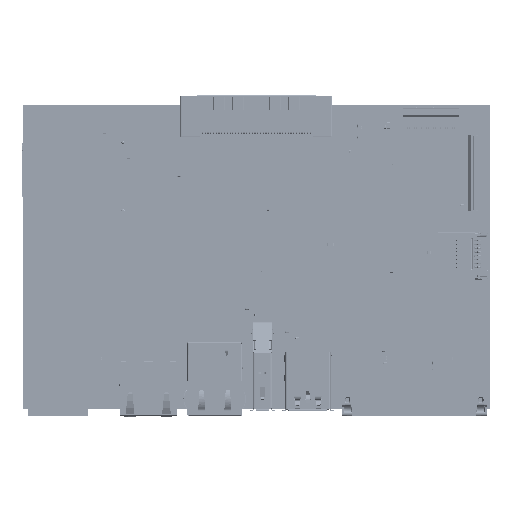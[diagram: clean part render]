
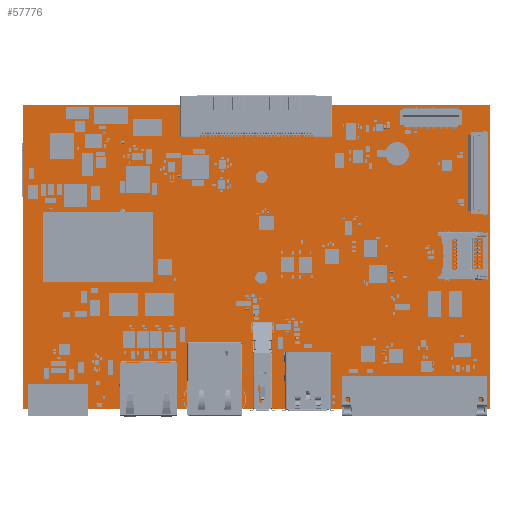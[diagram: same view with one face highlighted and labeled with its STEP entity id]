
A CAD part, top view. The second image highlights one B-rep face of the part: STEP entity #57776.
In plain terms, the highlighted planar face has unit normal (0, 0, 1).
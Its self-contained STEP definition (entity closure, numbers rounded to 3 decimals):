
#57776=ADVANCED_FACE('',(#136945,#136946,#136947,#136948,#136949,#136950,#136951,#136952,#136953,#136954,#136955,#136956,#136957,#136958,#136959),#136960,.T.);
#136945=FACE_BOUND('',#236999,.T.);
#136946=FACE_BOUND('',#237000,.T.);
#136947=FACE_BOUND('',#237001,.T.);
#136948=FACE_BOUND('',#237002,.T.);
#136949=FACE_BOUND('',#237003,.T.);
#136950=FACE_BOUND('',#237004,.T.);
#136951=FACE_BOUND('',#237005,.T.);
#136952=FACE_BOUND('',#237006,.T.);
#136953=FACE_BOUND('',#237007,.T.);
#136954=FACE_BOUND('',#237008,.T.);
#136955=FACE_BOUND('',#237009,.T.);
#136956=FACE_BOUND('',#237010,.T.);
#136957=FACE_BOUND('',#237011,.T.);
#136958=FACE_BOUND('',#237012,.T.);
#136959=FACE_OUTER_BOUND('',#237013,.T.);
#136960=PLANE('',#237014);
#236999=EDGE_LOOP('',(#365048));
#237000=EDGE_LOOP('',(#365049));
#237001=EDGE_LOOP('',(#365050));
#237002=EDGE_LOOP('',(#365051));
#237003=EDGE_LOOP('',(#365052));
#237004=EDGE_LOOP('',(#365053));
#237005=EDGE_LOOP('',(#365054));
#237006=EDGE_LOOP('',(#365055));
#237007=EDGE_LOOP('',(#365056));
#237008=EDGE_LOOP('',(#365057));
#237009=EDGE_LOOP('',(#365058));
#237010=EDGE_LOOP('',(#365059));
#237011=EDGE_LOOP('',(#365060));
#237012=EDGE_LOOP('',(#365061));
#237013=EDGE_LOOP('',(#365062,#365063,#365064,#365065));
#237014=AXIS2_PLACEMENT_3D('',#365066,#365067,#365068);
#365048=ORIENTED_EDGE('',*,*,#628884,.T.);
#365049=ORIENTED_EDGE('',*,*,#628887,.T.);
#365050=ORIENTED_EDGE('',*,*,#628890,.T.);
#365051=ORIENTED_EDGE('',*,*,#628893,.T.);
#365052=ORIENTED_EDGE('',*,*,#628896,.T.);
#365053=ORIENTED_EDGE('',*,*,#628899,.T.);
#365054=ORIENTED_EDGE('',*,*,#628902,.T.);
#365055=ORIENTED_EDGE('',*,*,#628905,.T.);
#365056=ORIENTED_EDGE('',*,*,#628908,.T.);
#365057=ORIENTED_EDGE('',*,*,#628911,.T.);
#365058=ORIENTED_EDGE('',*,*,#628914,.T.);
#365059=ORIENTED_EDGE('',*,*,#628917,.T.);
#365060=ORIENTED_EDGE('',*,*,#628920,.T.);
#365061=ORIENTED_EDGE('',*,*,#628923,.T.);
#365062=ORIENTED_EDGE('',*,*,#628926,.T.);
#365063=ORIENTED_EDGE('',*,*,#628927,.T.);
#365064=ORIENTED_EDGE('',*,*,#628928,.T.);
#365065=ORIENTED_EDGE('',*,*,#628929,.T.);
#365066=CARTESIAN_POINT('',(67.5,44.0,1.295));
#365067=DIRECTION('',(0.0,0.0,1.0));
#365068=DIRECTION('',(1.0,0.0,0.0));
#628884=EDGE_CURVE('',#753294,#753294,#753295,.T.);
#628887=EDGE_CURVE('',#753299,#753299,#753300,.T.);
#628890=EDGE_CURVE('',#753304,#753304,#753305,.T.);
#628893=EDGE_CURVE('',#753309,#753309,#753310,.T.);
#628896=EDGE_CURVE('',#753314,#753314,#753315,.T.);
#628899=EDGE_CURVE('',#753319,#753319,#753320,.T.);
#628902=EDGE_CURVE('',#753324,#753324,#753325,.T.);
#628905=EDGE_CURVE('',#753329,#753329,#753330,.T.);
#628908=EDGE_CURVE('',#753334,#753334,#753335,.T.);
#628911=EDGE_CURVE('',#753339,#753339,#753340,.T.);
#628914=EDGE_CURVE('',#753344,#753344,#753345,.T.);
#628917=EDGE_CURVE('',#753349,#753349,#753350,.T.);
#628920=EDGE_CURVE('',#753354,#753354,#753355,.T.);
#628923=EDGE_CURVE('',#753359,#753359,#753360,.T.);
#628926=EDGE_CURVE('',#753364,#753365,#753366,.T.);
#628927=EDGE_CURVE('',#753365,#753367,#753368,.T.);
#628928=EDGE_CURVE('',#753367,#753369,#753370,.T.);
#628929=EDGE_CURVE('',#753369,#753364,#753371,.T.);
#753294=VERTEX_POINT('',#948251);
#753295=CIRCLE('',#948252,1.65);
#753299=VERTEX_POINT('',#948256);
#753300=CIRCLE('',#948257,1.65);
#753304=VERTEX_POINT('',#948261);
#753305=CIRCLE('',#948262,1.625);
#753309=VERTEX_POINT('',#948266);
#753310=CIRCLE('',#948267,1.625);
#753314=VERTEX_POINT('',#948271);
#753315=CIRCLE('',#948272,1.75);
#753319=VERTEX_POINT('',#948276);
#753320=CIRCLE('',#948277,0.55);
#753324=VERTEX_POINT('',#948281);
#753325=CIRCLE('',#948282,0.8);
#753329=VERTEX_POINT('',#948286);
#753330=CIRCLE('',#948287,1.75);
#753334=VERTEX_POINT('',#948291);
#753335=CIRCLE('',#948292,0.55);
#753339=VERTEX_POINT('',#948296);
#753340=CIRCLE('',#948297,0.8);
#753344=VERTEX_POINT('',#948301);
#753345=CIRCLE('',#948302,0.4);
#753349=VERTEX_POINT('',#948306);
#753350=CIRCLE('',#948307,0.4);
#753354=VERTEX_POINT('',#948311);
#753355=CIRCLE('',#948312,0.4);
#753359=VERTEX_POINT('',#948316);
#753360=CIRCLE('',#948317,0.4);
#753364=VERTEX_POINT('',#948321);
#753365=VERTEX_POINT('',#948322);
#753366=LINE('',#948323,#948324);
#753367=VERTEX_POINT('',#948325);
#753368=LINE('',#948326,#948327);
#753369=VERTEX_POINT('',#948328);
#753370=LINE('',#948329,#948330);
#753371=LINE('',#948331,#948332);
#948251=CARTESIAN_POINT('',(61.112,10.487,1.295));
#948252=AXIS2_PLACEMENT_3D('',#1231588,#1231589,#1231590);
#948256=CARTESIAN_POINT('',(49.682,10.487,1.295));
#948257=AXIS2_PLACEMENT_3D('',#1231594,#1231595,#1231596);
#948261=CARTESIAN_POINT('',(29.82,5.105,1.295));
#948262=AXIS2_PLACEMENT_3D('',#1231600,#1231601,#1231602);
#948266=CARTESIAN_POINT('',(42.52,5.105,1.295));
#948267=AXIS2_PLACEMENT_3D('',#1231606,#1231607,#1231608);
#948271=CARTESIAN_POINT('',(68.83,39.748,1.295));
#948272=AXIS2_PLACEMENT_3D('',#1231612,#1231613,#1231614);
#948276=CARTESIAN_POINT('',(28.58,48.548,1.295));
#948277=AXIS2_PLACEMENT_3D('',#1231618,#1231619,#1231620);
#948281=CARTESIAN_POINT('',(28.58,28.798,1.295));
#948282=AXIS2_PLACEMENT_3D('',#1231624,#1231625,#1231626);
#948286=CARTESIAN_POINT('',(68.928,68.81,1.295));
#948287=AXIS2_PLACEMENT_3D('',#1231630,#1231631,#1231632);
#948291=CARTESIAN_POINT('',(28.678,77.61,1.295));
#948292=AXIS2_PLACEMENT_3D('',#1231636,#1231637,#1231638);
#948296=CARTESIAN_POINT('',(28.678,57.86,1.295));
#948297=AXIS2_PLACEMENT_3D('',#1231642,#1231643,#1231644);
#948301=CARTESIAN_POINT('',(81.102,4.018,1.295));
#948302=AXIS2_PLACEMENT_3D('',#1231648,#1231649,#1231650);
#948306=CARTESIAN_POINT('',(81.102,2.218,1.295));
#948307=AXIS2_PLACEMENT_3D('',#1231654,#1231655,#1231656);
#948311=CARTESIAN_POINT('',(89.789,3.992,1.295));
#948312=AXIS2_PLACEMENT_3D('',#1231660,#1231661,#1231662);
#948316=CARTESIAN_POINT('',(89.789,2.192,1.295));
#948317=AXIS2_PLACEMENT_3D('',#1231666,#1231667,#1231668);
#948321=CARTESIAN_POINT('',(0.0,0.0,1.295));
#948322=CARTESIAN_POINT('',(135.0,0.0,1.295));
#948323=CARTESIAN_POINT('',(67.5,0.0,1.295));
#948324=VECTOR('',#1231672,1.0);
#948325=CARTESIAN_POINT('',(135.0,88.0,1.295));
#948326=CARTESIAN_POINT('',(135.0,44.0,1.295));
#948327=VECTOR('',#1231673,1.0);
#948328=CARTESIAN_POINT('',(0.0,88.0,1.295));
#948329=CARTESIAN_POINT('',(67.5,88.0,1.295));
#948330=VECTOR('',#1231674,1.0);
#948331=CARTESIAN_POINT('',(0.0,44.0,1.295));
#948332=VECTOR('',#1231675,1.0);
#1231588=CARTESIAN_POINT('',(61.112,8.837,1.295));
#1231589=DIRECTION('',(0.0,0.0,-1.0));
#1231590=DIRECTION('',(0.0,1.0,0.0));
#1231594=CARTESIAN_POINT('',(49.682,8.837,1.295));
#1231595=DIRECTION('',(0.0,0.0,-1.0));
#1231596=DIRECTION('',(0.0,1.0,0.0));
#1231600=CARTESIAN_POINT('',(29.82,3.48,1.295));
#1231601=DIRECTION('',(0.0,0.0,-1.0));
#1231602=DIRECTION('',(0.0,1.0,0.0));
#1231606=CARTESIAN_POINT('',(42.52,3.48,1.295));
#1231607=DIRECTION('',(0.0,0.0,-1.0));
#1231608=DIRECTION('',(0.0,1.0,0.0));
#1231612=CARTESIAN_POINT('',(68.83,37.998,1.295));
#1231613=DIRECTION('',(0.0,0.0,-1.0));
#1231614=DIRECTION('',(0.0,1.0,0.0));
#1231618=CARTESIAN_POINT('',(28.58,47.998,1.295));
#1231619=DIRECTION('',(0.0,0.0,-1.0));
#1231620=DIRECTION('',(0.0,1.0,0.0));
#1231624=CARTESIAN_POINT('',(28.58,27.998,1.295));
#1231625=DIRECTION('',(0.0,0.0,-1.0));
#1231626=DIRECTION('',(0.0,1.0,0.0));
#1231630=CARTESIAN_POINT('',(68.928,67.06,1.295));
#1231631=DIRECTION('',(0.0,0.0,-1.0));
#1231632=DIRECTION('',(0.0,1.0,0.0));
#1231636=CARTESIAN_POINT('',(28.678,77.06,1.295));
#1231637=DIRECTION('',(0.0,0.0,-1.0));
#1231638=DIRECTION('',(0.0,1.0,0.0));
#1231642=CARTESIAN_POINT('',(28.678,57.06,1.295));
#1231643=DIRECTION('',(0.0,0.0,-1.0));
#1231644=DIRECTION('',(0.0,1.0,0.0));
#1231648=CARTESIAN_POINT('',(81.102,3.618,1.295));
#1231649=DIRECTION('',(0.0,0.0,-1.0));
#1231650=DIRECTION('',(0.0,1.0,0.0));
#1231654=CARTESIAN_POINT('',(81.102,1.818,1.295));
#1231655=DIRECTION('',(0.0,0.0,-1.0));
#1231656=DIRECTION('',(0.0,1.0,0.0));
#1231660=CARTESIAN_POINT('',(89.789,3.592,1.295));
#1231661=DIRECTION('',(0.0,0.0,-1.0));
#1231662=DIRECTION('',(0.0,1.0,0.0));
#1231666=CARTESIAN_POINT('',(89.789,1.792,1.295));
#1231667=DIRECTION('',(0.0,0.0,-1.0));
#1231668=DIRECTION('',(0.0,1.0,0.0));
#1231672=DIRECTION('',(1.0,0.0,0.0));
#1231673=DIRECTION('',(0.0,1.0,0.0));
#1231674=DIRECTION('',(-1.0,0.0,0.0));
#1231675=DIRECTION('',(0.0,-1.0,0.0));
